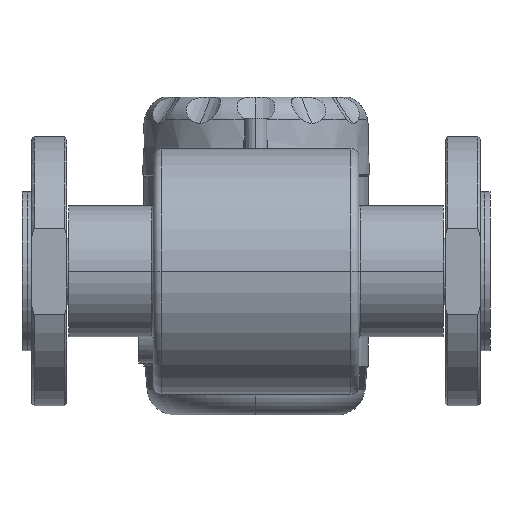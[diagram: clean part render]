
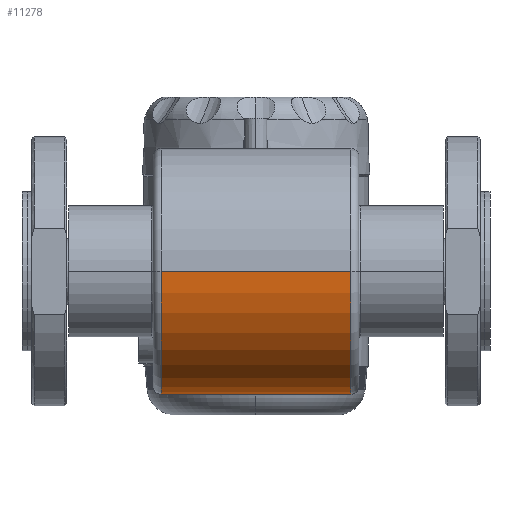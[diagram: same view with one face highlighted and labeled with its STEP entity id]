
A CAD part, front view. The second image highlights one B-rep face of the part: STEP entity #11278.
In plain terms, the highlighted cylindrical face has radius 52.5 mm (diameter 105 mm), a partial arc.
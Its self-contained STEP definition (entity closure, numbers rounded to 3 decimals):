
#83 = CYLINDRICAL_SURFACE ( 'NONE', #1252, 52.5 ) ;
#887 = VERTEX_POINT ( 'NONE', #9354 ) ;
#1252 = AXIS2_PLACEMENT_3D ( 'NONE', #5571, #8299, #4466 ) ;
#1323 = CARTESIAN_POINT ( 'NONE',  ( 40.5, 0., -52.5 ) ) ;
#2080 = VERTEX_POINT ( 'NONE', #1323 ) ;
#2187 = DIRECTION ( 'NONE',  ( -1., 0., 0. ) ) ;
#2901 = ORIENTED_EDGE ( 'NONE', *, *, #9091, .F. ) ;
#3515 = ORIENTED_EDGE ( 'NONE', *, *, #22888, .T. ) ;
#3588 = CIRCLE ( 'NONE', #24389, 52.5 ) ;
#4064 = LINE ( 'NONE', #7391, #19228 ) ;
#4466 = DIRECTION ( 'NONE',  ( 0., -1., 0. ) ) ;
#5571 = CARTESIAN_POINT ( 'NONE',  ( -82.051, 0., 0. ) ) ;
#7045 = FACE_OUTER_BOUND ( 'NONE', #8162, .T. ) ;
#7348 = CARTESIAN_POINT ( 'NONE',  ( 40.5, 0., 0. ) ) ;
#7391 = CARTESIAN_POINT ( 'NONE',  ( -82.051, -52.5, 0. ) ) ;
#7481 = ORIENTED_EDGE ( 'NONE', *, *, #10405, .F. ) ;
#8162 = EDGE_LOOP ( 'NONE', ( #3515, #23738, #2901, #7481 ) ) ;
#8299 = DIRECTION ( 'NONE',  ( -1., 0., 0. ) ) ;
#8769 = VERTEX_POINT ( 'NONE', #22603 ) ;
#9047 = CARTESIAN_POINT ( 'NONE',  ( 40.5, -52.5, 0. ) ) ;
#9091 = EDGE_CURVE ( 'NONE', #887, #8769, #3588, .T. ) ;
#9352 = DIRECTION ( 'NONE',  ( 0., -1., 0. ) ) ;
#9354 = CARTESIAN_POINT ( 'NONE',  ( -40.5, 0., -52.5 ) ) ;
#10405 = EDGE_CURVE ( 'NONE', #2080, #887, #20457, .T. ) ;
#10672 = VERTEX_POINT ( 'NONE', #9047 ) ;
#10776 = EDGE_CURVE ( 'NONE', #10672, #8769, #4064, .T. ) ;
#10800 = AXIS2_PLACEMENT_3D ( 'NONE', #7348, #21177, #9352 ) ;
#11263 = CARTESIAN_POINT ( 'NONE',  ( -40.5, 0., 0. ) ) ;
#11278 = ADVANCED_FACE ( 'NONE', ( #7045 ), #83, .T. ) ;
#13271 = DIRECTION ( 'NONE',  ( 0., -1., 0. ) ) ;
#14866 = CIRCLE ( 'NONE', #10800, 52.5 ) ;
#15988 = CARTESIAN_POINT ( 'NONE',  ( -40.5, 0., -52.5 ) ) ;
#19196 = DIRECTION ( 'NONE',  ( -1., 0., 0. ) ) ;
#19228 = VECTOR ( 'NONE', #19196, 1000. ) ;
#20457 = LINE ( 'NONE', #15988, #24840 ) ;
#21177 = DIRECTION ( 'NONE',  ( -1., 0., 0. ) ) ;
#22603 = CARTESIAN_POINT ( 'NONE',  ( -40.5, -52.5, 0. ) ) ;
#22888 = EDGE_CURVE ( 'NONE', #2080, #10672, #14866, .T. ) ;
#23738 = ORIENTED_EDGE ( 'NONE', *, *, #10776, .T. ) ;
#24389 = AXIS2_PLACEMENT_3D ( 'NONE', #11263, #24823, #13271 ) ;
#24823 = DIRECTION ( 'NONE',  ( -1., 0., 0. ) ) ;
#24840 = VECTOR ( 'NONE', #2187, 1000. ) ;
